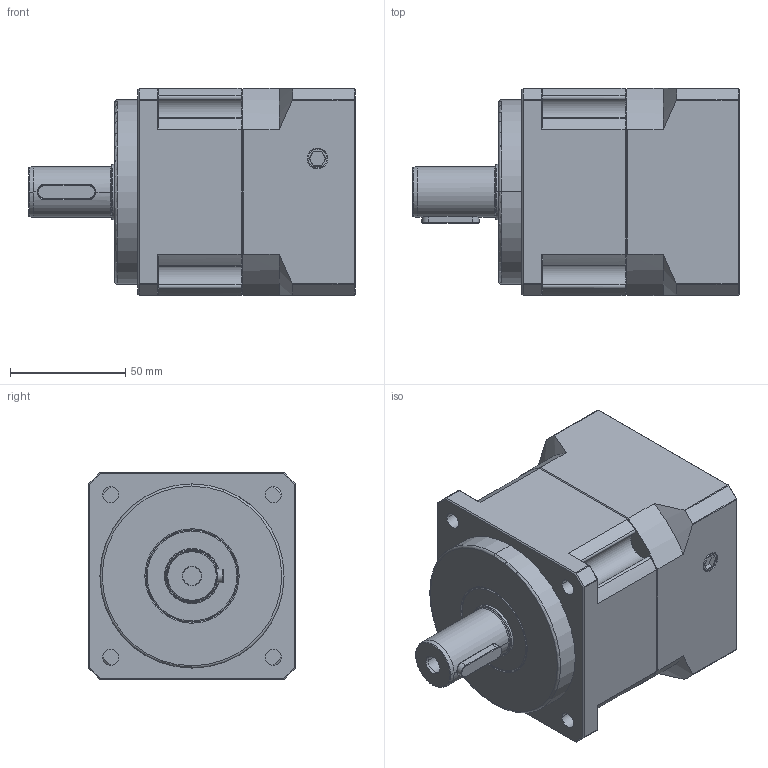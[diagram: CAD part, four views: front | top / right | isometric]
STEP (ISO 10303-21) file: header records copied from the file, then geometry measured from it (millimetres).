
FILE_DESCRIPTION((''),'2;1');
FILE_NAME('TB90-L1_70PCD100M5_ASM','2017-02-11T',('Administrator'),(''),'PRO/ENGINEER BY PARAMETRIC TECHNOLOGY CORPORATION, 2010280','PRO/ENGINEER BY PARAMETRIC TECHNOLOGY CORPORATION, 2010280','');
FILE_SCHEMA(('CONFIG_CONTROL_DESIGN'));
Length unit declared in the file: millimetre
Products named in the file (10): A01_5; A03_4; A04_3; A05_1; A09__1; A10__1; A03_ASM_1_ASM; A12_3; TB90-2_ASM_7_ASM; TB90-L1_70PCD100M5_ASM
Assembly tree (10 placements, depth 4):
  TB90-L1_70PCD100M5_ASM
    TB90-2_ASM_7_ASM
      A01_5
      A03_4
      A04_3
      A05_1
      A03_ASM_1_ASM
        A09__1
        A10__1
      A12_3  x2
Bounding box: 142 x 90 x 90 mm (x, y, z)
Volume: 577757.5 mm3; surface area: 103974.2 mm2
Topology: 8 solids, 8 shells, 368 faces, 1008 edges, 647 vertices
Faces by surface type: plane 136, cylinder 114, cone 96, torus 18, bspline 4
Entity records: 11946 total; most frequent: CARTESIAN_POINT 2659, DIRECTION 2043, ORIENTED_EDGE 1864, EDGE_CURVE 932, AXIS2_PLACEMENT_3D 819, VERTEX_POINT 613, CIRCLE 447, VECTOR 405
